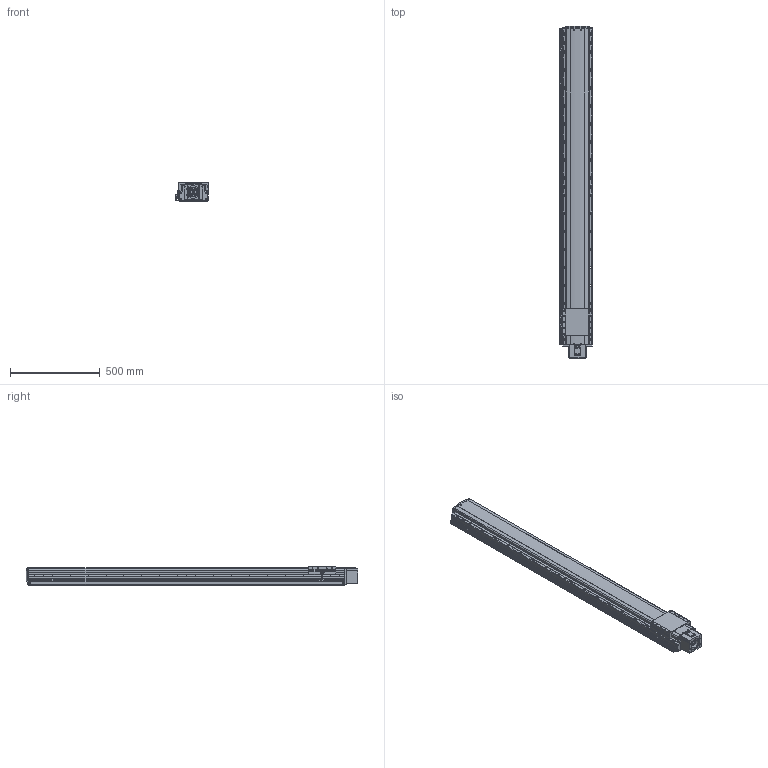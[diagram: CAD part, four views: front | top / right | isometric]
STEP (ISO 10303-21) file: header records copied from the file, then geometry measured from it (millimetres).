
FILE_DESCRIPTION(('STEP AP214'),'1');
FILE_NAME('Z:/Web/3D/PSA165/STP/PSA165-1500 (3D)/PSA165ㅁㅁ-1500S+3SL.stp','2014-06-24T10:51:16',(' '),(' '),'Spatial InterOp 3D',' ',' ');
FILE_SCHEMA(('automotive_design'));
Length unit declared in the file: millimetre
Products named in the file (85): 스크루 : Round - M4.0 x 12.0; RRCV-PA160; BASE; 스크루 : Round - M4.0 x 10.0; RN15; Screw 20; SLIDE; FRCV; 스크루 : Socket - M6.0 x 25.0; MTHZ-SAN150-80A; SSFX-SAN65; CPLCV-SAN65; 스크루 : Round - M3.0 x 6.0; SDWA47C(2); SDWA47C(3-1); SDWA47C(3); SDWA47C(1); SDWA47C(4); SDWA47C(5); M3.0 x 6.0; SRL-16x17-360L; SGD-SAN150; EE-SX674; SBK-SX674-352; BHCS M4.0 x 10.0
Bounding box: 181 x 1849.8 x 104 mm (x, y, z)
Volume: 24973537.1 mm3; surface area: 1730897.4 mm2
Topology: 85 solids, 85 shells, 3685 faces, 9815 edges, 6321 vertices
Faces by surface type: plane 1779, cylinder 1360, cone 417, sphere 70, bspline 35, torus 24
Entity records: 150745 total; most frequent: CARTESIAN_POINT 26000, DIRECTION 20359, ORIENTED_EDGE 19254, EDGE_CURVE 9627, AXIS2_PLACEMENT_3D 7330, VERTEX_POINT 6321, LINE 5699, VECTOR 5699
